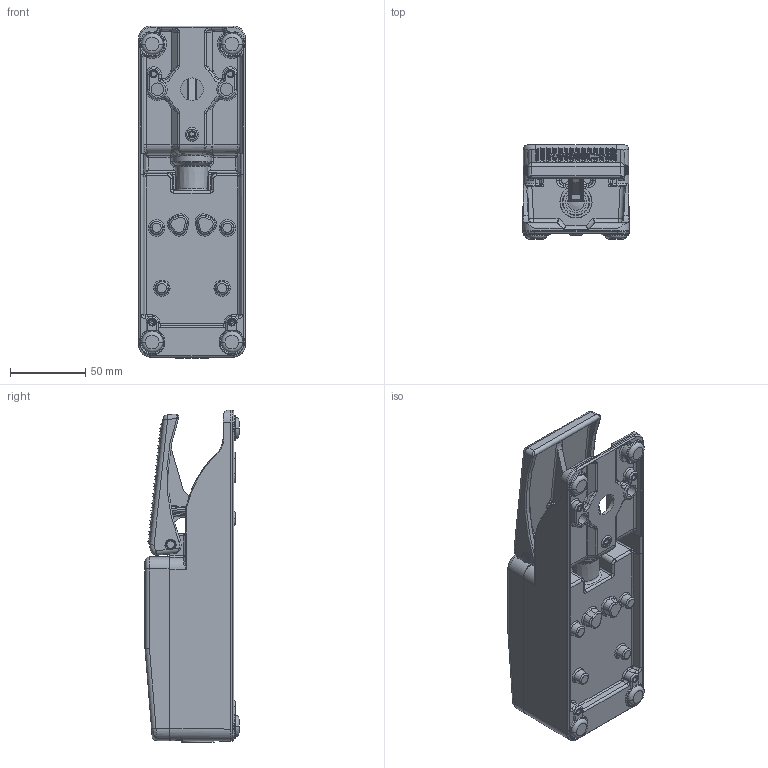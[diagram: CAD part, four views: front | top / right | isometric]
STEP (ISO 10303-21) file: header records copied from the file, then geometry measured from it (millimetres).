
FILE_DESCRIPTION((''),'2;1');
FILE_NAME('6061100005','2021-02-08T06:55:41',('Yvonne.Storm'),(''),'CREO PARAMETRIC BY PTC INC, 2018190','CREO PARAMETRIC BY PTC INC, 2018190','');
FILE_SCHEMA(('AUTOMOTIVE_DESIGN { 1 0 10303 214 1 1 1 1 }'));
Products named in the file (1): 6061100005
Bounding box: 70.72 x 62.5 x 220.6 mm (x, y, z)
Volume: 532914.6 mm3; surface area: 96947.2 mm2
Topology: 2 solids, 6 shells, 1946 faces, 4388 edges, 2653 vertices
Faces by surface type: plane 994, cylinder 469, bspline 196, torus 187, cone 82, sphere 18
Entity records: 97428 total; most frequent: CARTESIAN_POINT 27413, ORIENTED_EDGE 8754, DIRECTION 8300, PRESENTATION_STYLE_ASSIGNMENT 6329, STYLED_ITEM 4383, CURVE_STYLE 4381, EDGE_CURVE 4377, AXIS2_PLACEMENT_3D 2918
